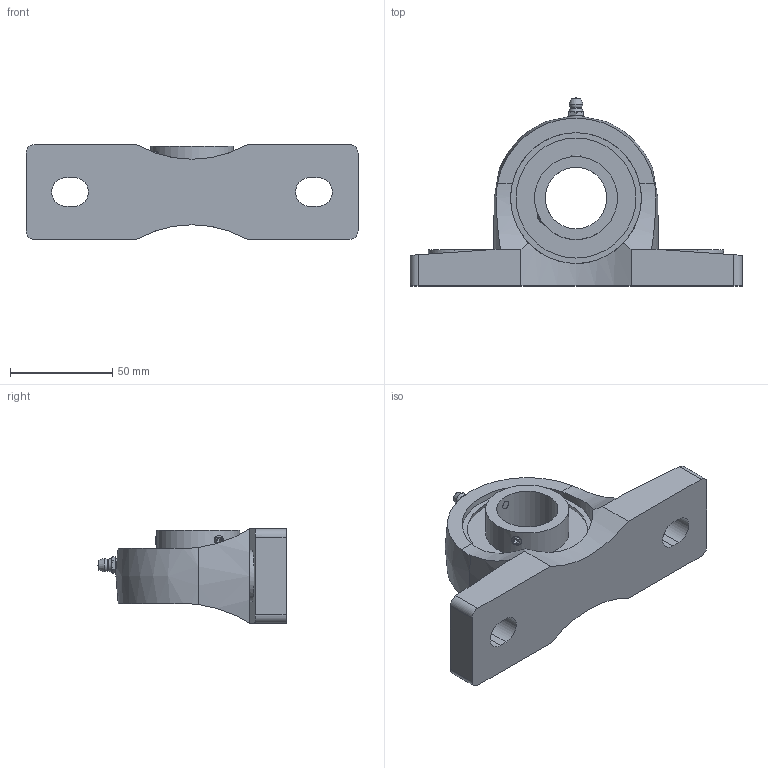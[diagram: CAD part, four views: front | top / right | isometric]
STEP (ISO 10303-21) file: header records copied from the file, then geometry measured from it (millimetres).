
FILE_DESCRIPTION(/* description */ (''),/* implementation_level */ '2;1');
FILE_NAME(/* name */ 'C:\Users\UGijyutu_200702\Desktop\09.プラスチックハウジング\MBPPL200V\MBPPL200V\MBPPL206V.stp',/* time_stamp */ '2023-02-10T13:55:27+09:00',/* author */ ('UGijyutu_200702'),/* organization */ (''),/* preprocessor_version */ 'ST-DEVELOPER v18',/* originating_system */ 'Autodesk Inventor 2020',/* authorisation */ '');
FILE_SCHEMA (('AUTOMOTIVE_DESIGN { 1 0 10303 214 3 1 1 }'));
Length unit declared in the file: millimetre
Products named in the file (4): MBPPL206V; PPL206; MB6 V; 1/4-28UNF-2A
Assembly tree (3 placements, depth 2):
  MBPPL206V
    PPL206
    MB6 V
    1/4-28UNF-2A
Bounding box: 162 x 91.8 x 46 mm (x, y, z)
Volume: 200617.4 mm3; surface area: 45960.8 mm2
Topology: 3 solids, 3 shells, 107 faces, 279 edges, 187 vertices
Faces by surface type: plane 54, cylinder 31, cone 15, sphere 4, torus 2, bspline 1
Full cylindrical faces by diameter (mm): 3.2 x1, 5 x2, 5.359 x1, 6.35 x1, 30 x1, 40.5 x1, 63.8 x2
Entity records: 3882 total; most frequent: CARTESIAN_POINT 1039, ORIENTED_EDGE 556, DIRECTION 544, EDGE_CURVE 278, AXIS2_PLACEMENT_3D 211, VERTEX_POINT 187, EDGE_LOOP 127, LINE 122
